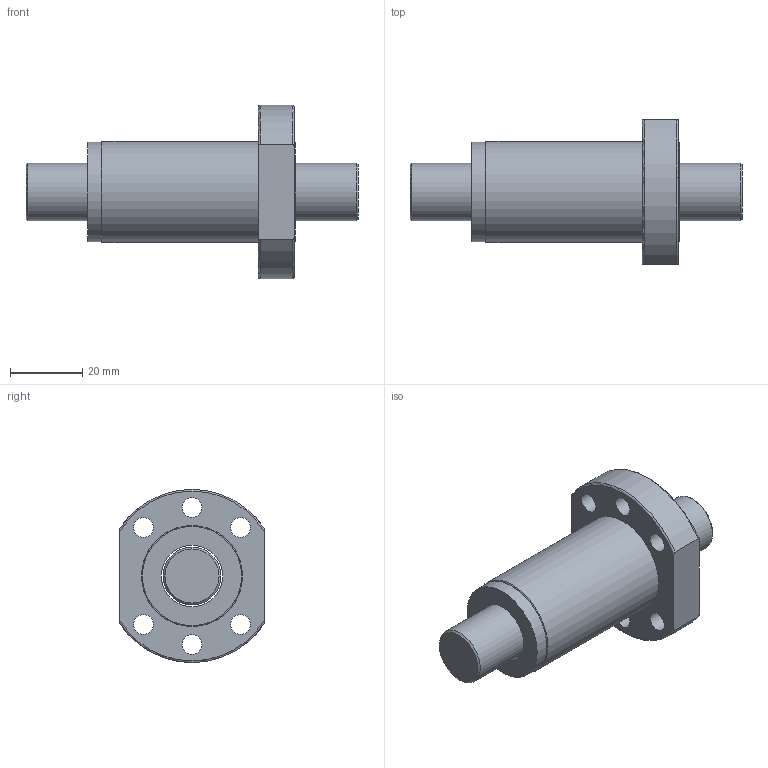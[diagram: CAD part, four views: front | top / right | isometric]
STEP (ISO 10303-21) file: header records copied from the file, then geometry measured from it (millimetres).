
FILE_DESCRIPTION(/* description */ (''),/* implementation_level */ '2;1');
FILE_NAME(/* name */ 'SFS1620',/* time_stamp */ '2007-10-26T10:36:47+08:00',/* author */ (''),/* organization */ (''),/* preprocessor_version */ 'ST-DEVELOPER v9',/* originating_system */ 'UGS - NX 3.0',/* authorisation */ '');
FILE_SCHEMA (('CONFIG_CONTROL_DESIGN'));
Length unit declared in the file: millimetre
Products named in the file (1): jaso37B0hu6g
Bounding box: 92 x 40 x 48 mm (x, y, z)
Volume: 49850.4 mm3; surface area: 19382.2 mm2
Topology: 4 solids, 4 shells, 35 faces, 78 edges, 53 vertices
Faces by surface type: cylinder 16, plane 12, torus 5, cone 2
Full cylindrical faces by diameter (mm): 5.5 x6, 16 x1, 17 x3, 27.5 x3, 28 x1
Entity records: 1106 total; most frequent: CARTESIAN_POINT 288, DIRECTION 158, ORIENTED_EDGE 110, AXIS2_PLACEMENT_3D 75, EDGE_LOOP 72, EDGE_CURVE 55, FACE_BOUND 52, VERTEX_POINT 47
